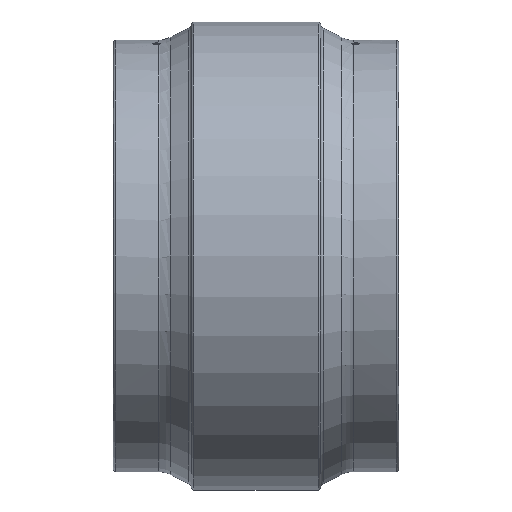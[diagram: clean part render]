
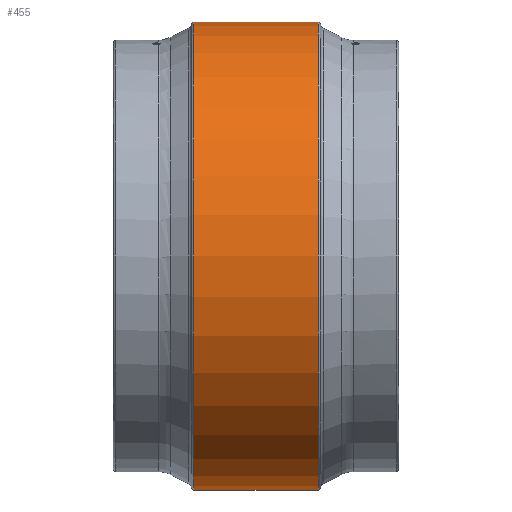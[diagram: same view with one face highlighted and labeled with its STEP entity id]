
A CAD part, front view. The second image highlights one B-rep face of the part: STEP entity #455.
In plain terms, the highlighted cylindrical face has radius 434 mm (diameter 868 mm), a full revolution.
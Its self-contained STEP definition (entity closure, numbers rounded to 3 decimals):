
#64=CYLINDRICAL_SURFACE('',#510,434.);
#78=ORIENTED_EDGE('',*,*,#186,.T.);
#79=ORIENTED_EDGE('',*,*,#184,.F.);
#184=EDGE_CURVE('',#238,#238,#280,.T.);
#186=EDGE_CURVE('',#240,#240,#282,.T.);
#238=VERTEX_POINT('',#698);
#240=VERTEX_POINT('',#703);
#280=CIRCLE('',#508,434.);
#282=CIRCLE('',#511,434.);
#312=EDGE_LOOP('',(#78));
#313=EDGE_LOOP('',(#79));
#380=FACE_BOUND('',#312,.T.);
#381=FACE_BOUND('',#313,.T.);
#455=ADVANCED_FACE('',(#380,#381),#64,.T.);
#508=AXIS2_PLACEMENT_3D('',#697,#573,#574);
#510=AXIS2_PLACEMENT_3D('',#701,#577,#578);
#511=AXIS2_PLACEMENT_3D('',#702,#579,#580);
#573=DIRECTION('',(-1.,0.,0.));
#574=DIRECTION('',(0.,0.,1.));
#577=DIRECTION('',(-1.,0.,0.));
#578=DIRECTION('',(0.,0.,1.));
#579=DIRECTION('',(-1.,0.,0.));
#580=DIRECTION('',(0.,0.,1.));
#697=CARTESIAN_POINT('',(-115.,0.,0.));
#698=CARTESIAN_POINT('',(-115.,0.,434.));
#701=CARTESIAN_POINT('',(-60.,0.,0.));
#702=CARTESIAN_POINT('',(115.,0.,0.));
#703=CARTESIAN_POINT('',(115.,0.,434.));
